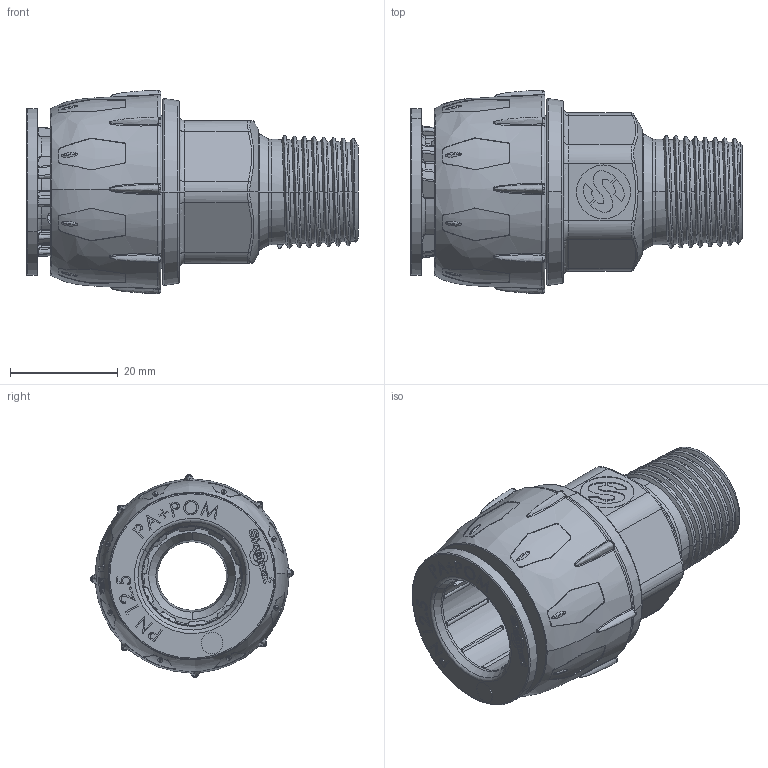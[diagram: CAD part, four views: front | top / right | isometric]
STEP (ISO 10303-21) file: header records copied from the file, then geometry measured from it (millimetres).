
FILE_DESCRIPTION (( 'STEP AP203' ), '1' );
FILE_NAME ('R211.018.000.STEP', '2024-07-30T10:30:07', ( '' ), ( '' ), 'SwSTEP 2.0', 'SolidWorks 2021', '' );
FILE_SCHEMA (( 'CONFIG_CONTROL_DESIGN' ));
Products named in the file (7): R211.018.012-L; R209.018.003; R209.018.001; R211.018.000; R216.018.000; R209.018.002; GUARNIZIONI OR_OR-123
Assembly tree (6 placements, depth 2):
  R211.018.000
    R211.018.012-L
    R209.018.002
    R216.018.000
    R209.018.003
    R209.018.001
    GUARNIZIONI OR_OR-123
Bounding box: 61.6 x 37.68 x 37.68 mm (x, y, z)
Volume: 23375.1 mm3; surface area: 21253.9 mm2
Topology: 6 solids, 6 shells, 1623 faces, 4050 edges, 2530 vertices
Faces by surface type: bspline 579, plane 492, cylinder 308, cone 127, torus 77, sphere 40
Entity records: 163354 total; most frequent: CARTESIAN_POINT 128808, ORIENTED_EDGE 8052, DIRECTION 5342, EDGE_CURVE 4026, VERTEX_POINT 2530, AXIS2_PLACEMENT_3D 1929, EDGE_LOOP 1750, ADVANCED_FACE 1623
